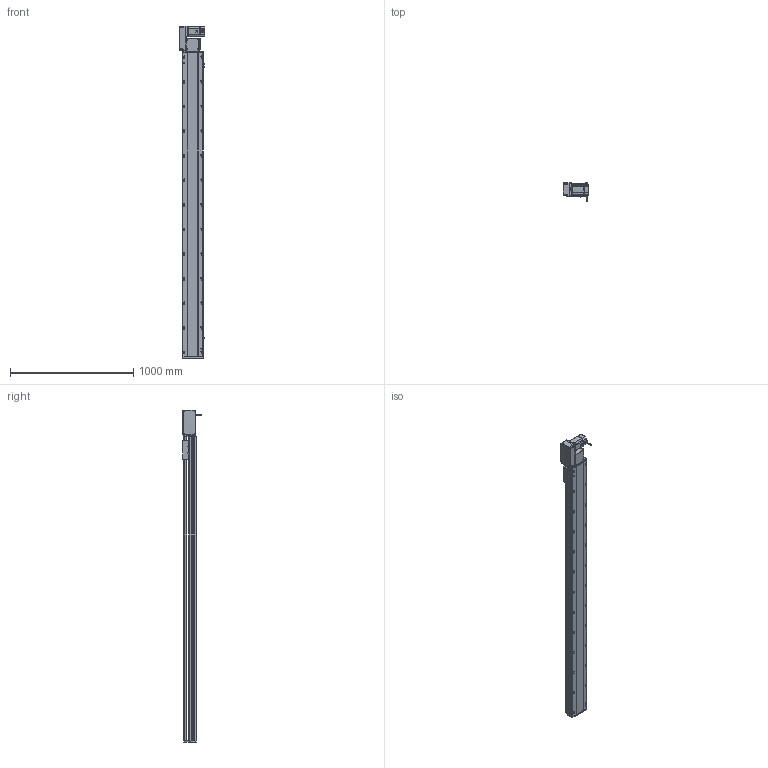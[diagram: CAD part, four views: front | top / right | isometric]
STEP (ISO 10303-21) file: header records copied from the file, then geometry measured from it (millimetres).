
FILE_DESCRIPTION (( 'STEP AP214' ), '1' );
FILE_NAME ('RTB17S-XX-2200-L-M75-C4.STEP', '2025-12-12T00:20:05', ( '' ), ( '' ), 'SwSTEP 2.0', 'SolidWorks 2018', '' );
FILE_SCHEMA (( 'AUTOMOTIVE_DESIGN' ));
Length unit declared in the file: millimetre
Products named in the file (15): 750W萇儂^RTB17S-XX-XX-L-M75-C4; EE672^RTB17S-XX-XX-L-M75-C4; RTB22S-GY-017P^RTB17S-L-々湍釱蚾饜-750W_RTB17S-XX-XX-L-M75-C4; RTB17-R-011菁釱^RTB17S-XX-XX-L-M75-C4; RTB17S-L-007奻裔^RTB17S-XX-XX-L-M75-C4; RTB22S-GY-008-M75--萇儂啣^RTB17S-L-々湍釱蚾饜-750W_RTB17S-XX-XX-L-M75-C4; RTB22S-GY-005P^RTB17S-L-々湍釱蚾饜-750W_RTB17S-XX-XX-L-M75-C4; RTB17S-XX-2200-L-M75-C4; RTB17S-L-004-賑釱^RTB17S-賑釱_RTB17S-XX-XX-L-M75-C4; RTB17S-L-001-耜醱啣^RTB17S-XX-XX-L-M75-C4; RMP17S-L-014-T20-P75--々湍釱^RTB17S-L-々湍釱蚾饜-750W_RTB17S-XX-XX-L-M75-C4; RTB17S-賑釱^RTB17S-XX-XX-L-M75-C4; RTB22S-GY-018P^RTB17S-L-々湍釱蚾饜-750W_RTB17S-XX-XX-L-M75-C4; RTH13-BL-012覜茼え俋离^RTB17S-賑釱_RTB17S-XX-XX-L-M75-C4; RTB17S-L-々湍釱蚾饜-750W^RTB17S-XX-XX-L-M75-C4
Assembly tree (17 placements, depth 3):
  RTB17S-XX-2200-L-M75-C4
    RTB17-R-011菁釱^RTB17S-XX-XX-L-M75-C4
    EE672^RTB17S-XX-XX-L-M75-C4  x3
    RTB17S-L-001-耜醱啣^RTB17S-XX-XX-L-M75-C4
    RTB17S-賑釱^RTB17S-XX-XX-L-M75-C4
      RTB17S-L-004-賑釱^RTB17S-賑釱_RTB17S-XX-XX-L-M75-C4
      RTH13-BL-012覜茼え俋离^RTB17S-賑釱_RTB17S-XX-XX-L-M75-C4
    RTB17S-L-007奻裔^RTB17S-XX-XX-L-M75-C4
    750W萇儂^RTB17S-XX-XX-L-M75-C4
    RTB17S-L-々湍釱蚾饜-750W^RTB17S-XX-XX-L-M75-C4
      RMP17S-L-014-T20-P75--々湍釱^RTB17S-L-々湍釱蚾饜-750W_RTB17S-XX-XX-L-M75-C4
      RTB22S-GY-005P^RTB17S-L-々湍釱蚾饜-750W_RTB17S-XX-XX-L-M75-C4
      RTB22S-GY-017P^RTB17S-L-々湍釱蚾饜-750W_RTB17S-XX-XX-L-M75-C4  x2
      RTB22S-GY-008-M75--萇儂啣^RTB17S-L-々湍釱蚾饜-750W_RTB17S-XX-XX-L-M75-C4
      RTB22S-GY-018P^RTB17S-L-々湍釱蚾饜-750W_RTB17S-XX-XX-L-M75-C4
Bounding box: 210.4 x 152.7 x 2699 mm (x, y, z)
Volume: 19705150.8 mm3; surface area: 3544014.8 mm2
Topology: 17 solids, 17 shells, 2185 faces, 6106 edges, 3950 vertices
Faces by surface type: plane 982, cylinder 787, bspline 294, cone 110, sphere 8, torus 4
Entity records: 62710 total; most frequent: CARTESIAN_POINT 18570, ORIENTED_EDGE 9056, DIRECTION 8402, EDGE_CURVE 4528, AXIS2_PLACEMENT_3D 2970, VERTEX_POINT 2954, VECTOR 2462, LINE 2462
